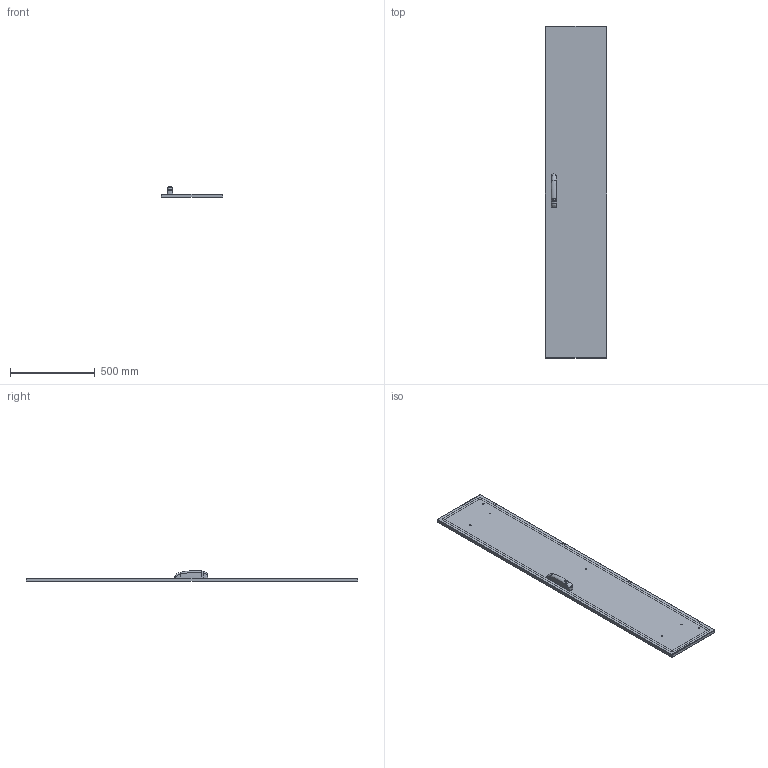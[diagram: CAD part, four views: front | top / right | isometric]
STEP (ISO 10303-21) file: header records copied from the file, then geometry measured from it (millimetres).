
FILE_DESCRIPTION (( 'STEP AP203' ), '1' );
FILE_NAME ('EUPF040200.STEP', '2021-03-15T10:36:05', ( '' ), ( '' ), 'SwSTEP 2.0', 'SolidWorks 2019', '' );
FILE_SCHEMA (( 'CONFIG_CONTROL_DESIGN' ));
Length unit declared in the file: millimetre
Products named in the file (3): EUPF040200; AR_ENUX_nuova_maniglia_mesan; AR_ENUX_Porta_laterale EUPF_2.0_0400x2000
Assembly tree (2 placements, depth 2):
  EUPF040200
    AR_ENUX_Porta_laterale EUPF_2.0_0400x2000
    AR_ENUX_nuova_maniglia_mesan
Bounding box: 362 x 1960 x 62 mm (x, y, z)
Volume: 2031344.7 mm3; surface area: 1636851.9 mm2
Topology: 6 solids, 6 shells, 180 faces, 398 edges, 238 vertices
Faces by surface type: cylinder 78, plane 47, bspline 25, cone 16, sphere 8, torus 6
Entity records: 8682 total; most frequent: CARTESIAN_POINT 4501, DIRECTION 831, ORIENTED_EDGE 772, EDGE_CURVE 386, AXIS2_PLACEMENT_3D 343, VERTEX_POINT 238, EDGE_LOOP 212, CIRCLE 183
